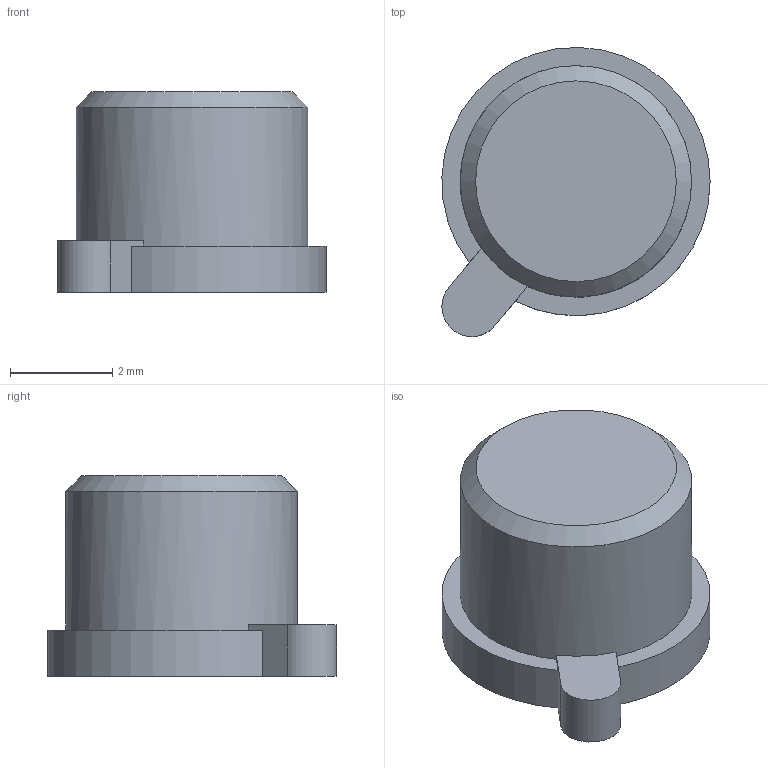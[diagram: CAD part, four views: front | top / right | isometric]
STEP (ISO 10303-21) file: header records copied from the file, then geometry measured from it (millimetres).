
FILE_DESCRIPTION(('FreeCAD Model'),'2;1');
FILE_NAME('Open CASCADE Shape Model','2023-12-26T08:27:05',( 'kicad StepUp'),('ksu MCAD'),'Open CASCADE STEP processor 7.6', 'FreeCAD','Unknown');
FILE_SCHEMA(('AUTOMOTIVE_DESIGN { 1 0 10303 214 1 1 1 1 }'));
Length unit declared in the file: millimetre
Products named in the file (1): Body
Bounding box: 5.24 x 5.65 x 3.91 mm (x, y, z)
Volume: 68.4 mm3; surface area: 102.5 mm2
Topology: 1 solids, 1 shells, 15 faces, 35 edges, 22 vertices
Faces by surface type: plane 10, cylinder 4, cone 1
Full cylindrical faces by diameter (mm): 4.52 x1
Entity records: 455 total; most frequent: DIRECTION 83, CARTESIAN_POINT 73, ORIENTED_EDGE 70, EDGE_CURVE 35, AXIS2_PLACEMENT_3D 32, VERTEX_POINT 22, LINE 19, VECTOR 19
